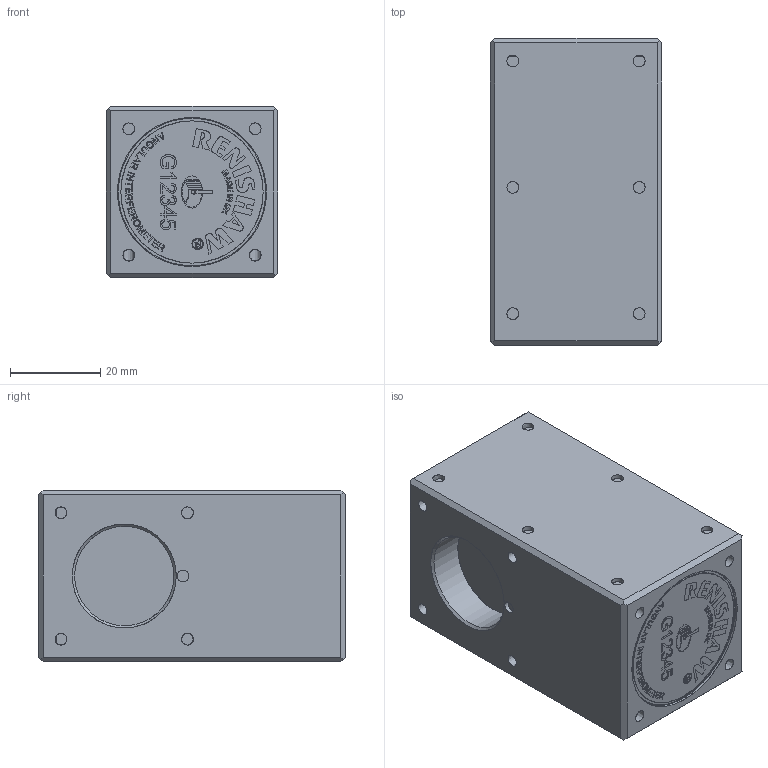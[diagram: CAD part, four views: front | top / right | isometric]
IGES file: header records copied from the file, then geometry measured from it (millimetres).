
Global section: file name: C:\Documents and Settings\js136726\My Documents\LA-8003-0186  ANGULAR INTER FEROMETER.igs; native system: NX V7.5; preprocessor: SIEMENS PLM Software NX 7.5; date: 20120206.132544; units: millimetre
Bounding box: 38 x 68 x 38 mm (x, y, z)
Surface area: 17352.8 mm2 (no closed solid volume)
Topology: 0 solids, 0 shells, 940 faces, 5741 edges, 5664 vertices
Faces by surface type: bspline 837, revolution 103
